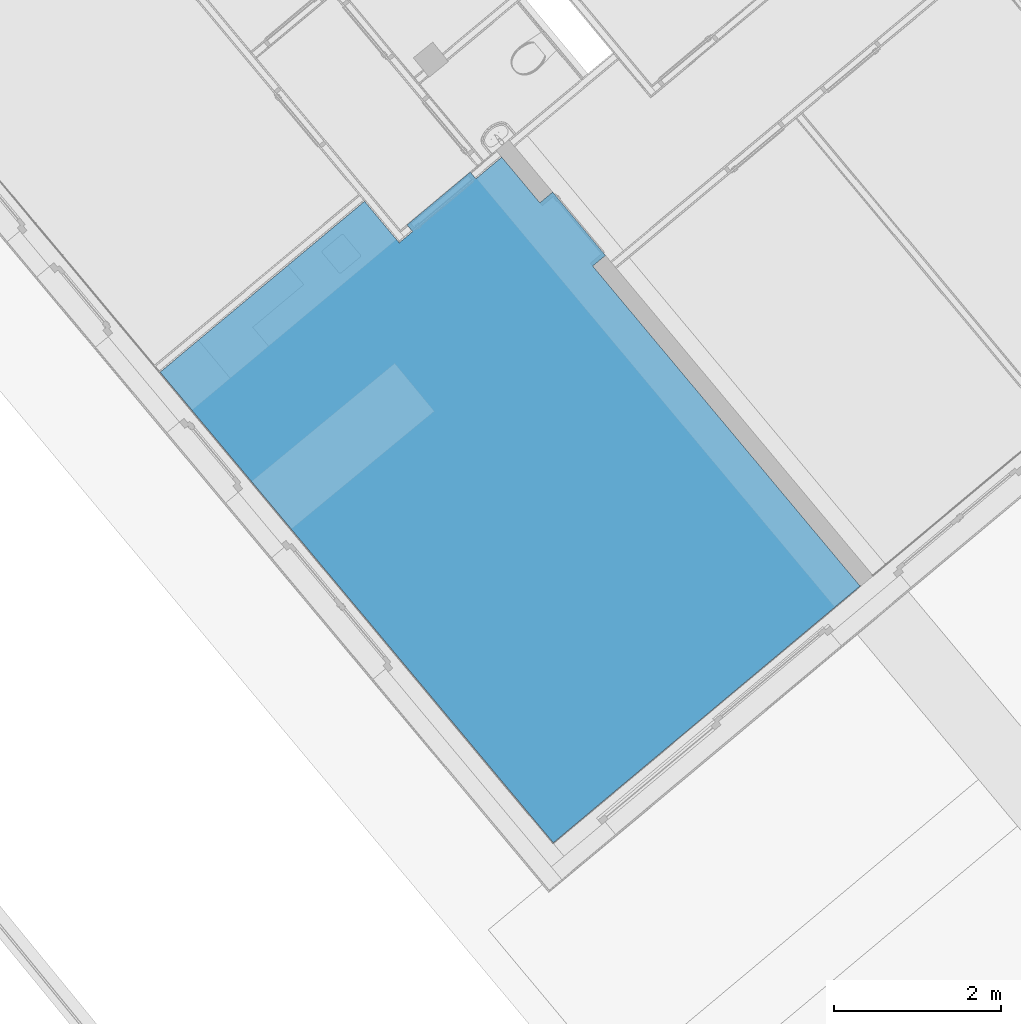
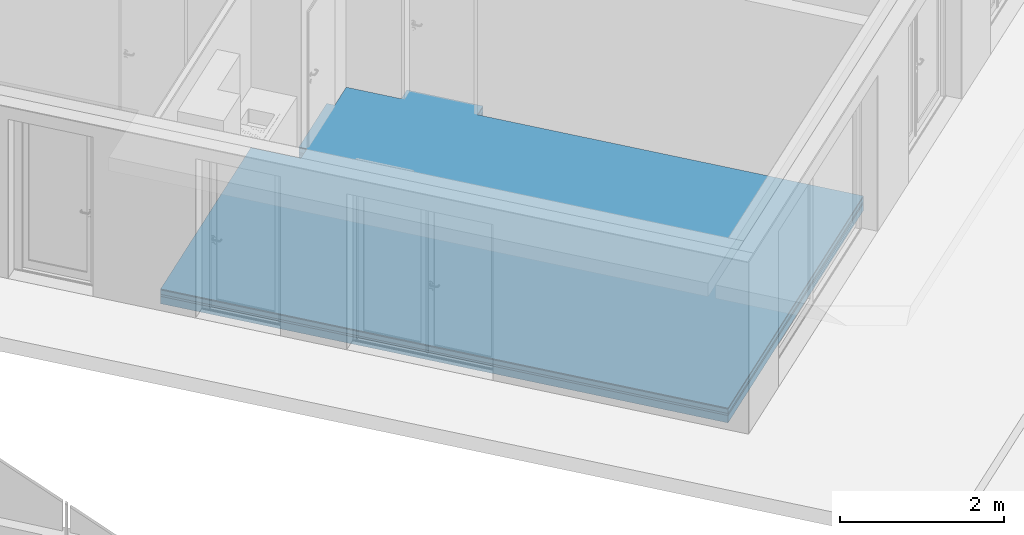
# One storey, part 21 of 67: 4 building element parts, 1 element without a shape of its own.
"""IFC4 building model written with IfcOpenShell, lengths in metres."""

from ifc_helpers import new_model, entity, si_unit, converted_unit, derived_unit, direction, frame, origin_with_axes, place, context, subcontext, project, spatial, polygons, material, type_object, element, aggregate, save


model = new_model("IFC4")

# Units and contexts
model_context = context("Model", 3, precision=1e-05, world=origin_with_axes(), true_north=direction((0.0, 1.0)))
body_context = subcontext(model_context, "Body", "Model", "MODEL_VIEW")
ifc_project = project(units=[si_unit("LENGTHUNIT", "METRE"), si_unit("AREAUNIT", "SQUARE_METRE"), si_unit("VOLUMEUNIT", "CUBIC_METRE"), converted_unit("PLANEANGLEUNIT", "DEGREE", entity("IfcPlaneAngleMeasure", 0.0174532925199), si_unit("PLANEANGLEUNIT", "RADIAN"), dimensions=[0, 0, 0, 0, 0, 0, 0]), converted_unit("TIMEUNIT", "Year", entity("IfcTimeMeasure", 31556926.0), si_unit("TIMEUNIT", "SECOND"), dimensions=[0, 0, 1, 0, 0, 0, 0]), si_unit("MASSUNIT", "GRAM", prefix="KILO"), si_unit("THERMODYNAMICTEMPERATUREUNIT", "DEGREE_CELSIUS"), si_unit("LUMINOUSINTENSITYUNIT", "LUMEN"), si_unit("ENERGYUNIT", "JOULE", prefix="MEGA"), derived_unit("THERMALCONDUCTANCEUNIT", [(si_unit("POWERUNIT", "WATT"), 1), (si_unit("LENGTHUNIT", "METRE"), -1), (si_unit("THERMODYNAMICTEMPERATUREUNIT", "KELVIN"), -1)]), derived_unit("SPECIFICHEATCAPACITYUNIT", [(si_unit("ENERGYUNIT", "JOULE"), 1), (si_unit("MASSUNIT", "GRAM", prefix="KILO"), -1), (si_unit("THERMODYNAMICTEMPERATUREUNIT", "KELVIN"), -1)]), derived_unit("MASSDENSITYUNIT", [(si_unit("MASSUNIT", "GRAM", prefix="KILO"), 1), (si_unit("VOLUMEUNIT", "CUBIC_METRE"), -1)])], contexts=[model_context])

# Site, building, storey
site_placement = place(None, frame((-0.00153261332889, -0.00661245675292, 0.0), z_axis=(0.0, 0.0, 1.0), x_axis=(1.0, 0.0, 0.0)))
site = spatial("IfcSite", under=ifc_project, at=site_placement, Name="Site", CompositionType="ELEMENT")
building_placement = place(site_placement, origin_with_axes())
building = spatial("IfcBuilding", under=site, at=building_placement, Name="Building", CompositionType="ELEMENT")
storey_placement = place(building_placement, frame((0.0, 0.0, -0.22), z_axis=(0.0, 0.0, 1.0), x_axis=(1.0, 0.0, 0.0)))
storey = spatial("IfcBuildingStorey", under=building, at=storey_placement, Name="EG", CompositionType="ELEMENT", Elevation=-0.22)

# Covering, building element parts
covering_type = type_object("IfcCoveringType", Name="DE 01 Decke Wohnung/Wohnung Parkett 220", PredefinedType="NOTDEFINED")
covering_placement = place(storey_placement, frame((-4.88832532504, 15.131985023, 0.22), z_axis=(0.0, 0.0, 1.0), x_axis=(1.0, 0.0, 0.0)))
covering = element("IfcCovering", 1, at=covering_placement, inside=storey, type_object=covering_type, Name="Decke-008", PredefinedType="NOTDEFINED")
ifc_material_1 = material(Name="Parkett")
building_element_part_1_placement = place(covering_placement, origin_with_axes())
building_element_part_1 = element("IfcBuildingElementPart", 2, at=building_element_part_1_placement, material=ifc_material_1, Name="Parkett", PredefinedType="NOTDEFINED", context=body_context, shape_type="Tessellation", body=[
    polygons([(0.0, 0.0, -0.015), (4.72379239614, -5.65318648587, -0.015), (4.72379239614, -5.65318648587, 0.0), (0.0, 0.0, 0.0), (2.455765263, 2.05203294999, -0.015), (2.87252503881, 1.55327687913, -0.015), (3.03331536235, 1.68763299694, -0.015), (2.96598832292, 1.76820639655, -0.015), (3.72568057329, 2.40300385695, -0.015), (3.79300748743, 2.32243033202, -0.015), (4.10363950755, 2.58199386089, -0.015), (4.56187738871, 2.03359883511, -0.015), (4.7153506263, 2.16184073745, -0.015), (5.35014796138, 1.4021484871, -0.015), (5.19667484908, 1.27390658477, -0.015), (8.40866584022, -2.57003544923, -0.015), (8.40866584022, -2.57003544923, 0.0), (2.455765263, 2.05203294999, 0.0), (5.19667484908, 1.27390658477, 0.0), (5.35014796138, 1.4021484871, 0.0), (4.7153506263, 2.16184073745, 0.0), (4.56187738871, 2.03359883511, 0.0), (4.10363950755, 2.58199386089, 0.0), (3.79300748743, 2.32243033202, 0.0), (3.72568057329, 2.40300385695, 0.0), (2.96598832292, 1.76820639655, 0.0), (3.03331536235, 1.68763299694, 0.0), (2.87252503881, 1.55327687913, 0.0)], [[[1, 2, 3, 4]], [[2, 1, 5, 6, 7, 8, 9, 10, 11, 12, 13, 14, 15, 16]], [[2, 16, 17, 3]], [[18, 4, 3, 17, 19, 20, 21, 22, 23, 24, 25, 26, 27, 28]], [[5, 1, 4, 18]], [[6, 5, 18, 28]], [[7, 6, 28, 27]], [[8, 7, 27, 26]], [[9, 8, 26, 25]], [[10, 9, 25, 24]], [[11, 10, 24, 23]], [[12, 11, 23, 22]], [[13, 12, 22, 21]], [[14, 13, 21, 20]], [[15, 14, 20, 19]], [[16, 15, 19, 17]]], closed=True),
])
ifc_material_2 = material(Name="Estrich")
building_element_part_2_placement = place(covering_placement, origin_with_axes())
building_element_part_2 = element("IfcBuildingElementPart", 3, at=building_element_part_2_placement, material=ifc_material_2, Name="Estrich", PredefinedType="NOTDEFINED", context=body_context, shape_type="Tessellation", body=[
    polygons([(0.0, 0.0, -0.08), (4.72379239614, -5.65318648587, -0.08), (4.72379239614, -5.65318648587, -0.015), (0.0, 0.0, -0.015), (2.455765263, 2.05203294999, -0.08), (2.87252503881, 1.55327687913, -0.08), (3.03331536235, 1.68763299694, -0.08), (2.96598832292, 1.76820639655, -0.08), (3.72568057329, 2.40300385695, -0.08), (3.79300748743, 2.32243033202, -0.08), (4.10363950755, 2.58199386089, -0.08), (4.56187738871, 2.03359883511, -0.08), (4.7153506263, 2.16184073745, -0.08), (5.35014796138, 1.4021484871, -0.08), (5.19667484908, 1.27390658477, -0.08), (8.40866584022, -2.57003544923, -0.08), (8.40866584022, -2.57003544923, -0.015), (2.455765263, 2.05203294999, -0.015), (5.19667484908, 1.27390658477, -0.015), (5.35014796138, 1.4021484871, -0.015), (4.7153506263, 2.16184073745, -0.015), (4.56187738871, 2.03359883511, -0.015), (4.10363950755, 2.58199386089, -0.015), (3.79300748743, 2.32243033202, -0.015), (3.72568057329, 2.40300385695, -0.015), (2.96598832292, 1.76820639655, -0.015), (3.03331536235, 1.68763299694, -0.015), (2.87252503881, 1.55327687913, -0.015)], [[[1, 2, 3, 4]], [[2, 1, 5, 6, 7, 8, 9, 10, 11, 12, 13, 14, 15, 16]], [[2, 16, 17, 3]], [[18, 4, 3, 17, 19, 20, 21, 22, 23, 24, 25, 26, 27, 28]], [[5, 1, 4, 18]], [[6, 5, 18, 28]], [[7, 6, 28, 27]], [[8, 7, 27, 26]], [[9, 8, 26, 25]], [[10, 9, 25, 24]], [[11, 10, 24, 23]], [[12, 11, 23, 22]], [[13, 12, 22, 21]], [[14, 13, 21, 20]], [[15, 14, 20, 19]], [[16, 15, 19, 17]]], closed=True),
])
ifc_material_3 = material(Name="Trittschalldämmung")
building_element_part_3_placement = place(covering_placement, origin_with_axes())
building_element_part_3 = element("IfcBuildingElementPart", 4, at=building_element_part_3_placement, material=ifc_material_3, Name="Trittschalldämmung", PredefinedType="NOTDEFINED", context=body_context, shape_type="Tessellation", body=[
    polygons([(0.0, 0.0, -0.11), (4.72379239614, -5.65318648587, -0.11), (4.72379239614, -5.65318648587, -0.08), (0.0, 0.0, -0.08), (2.455765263, 2.05203294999, -0.11), (2.87252503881, 1.55327687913, -0.11), (3.03331536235, 1.68763299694, -0.11), (2.96598832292, 1.76820639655, -0.11), (3.72568057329, 2.40300385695, -0.11), (3.79300748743, 2.32243033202, -0.11), (4.10363950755, 2.58199386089, -0.11), (4.56187738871, 2.03359883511, -0.11), (4.7153506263, 2.16184073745, -0.11), (5.35014796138, 1.4021484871, -0.11), (5.19667484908, 1.27390658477, -0.11), (8.40866584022, -2.57003544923, -0.11), (8.40866584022, -2.57003544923, -0.08), (2.455765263, 2.05203294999, -0.08), (5.19667484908, 1.27390658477, -0.08), (5.35014796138, 1.4021484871, -0.08), (4.7153506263, 2.16184073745, -0.08), (4.56187738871, 2.03359883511, -0.08), (4.10363950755, 2.58199386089, -0.08), (3.79300748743, 2.32243033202, -0.08), (3.72568057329, 2.40300385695, -0.08), (2.96598832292, 1.76820639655, -0.08), (3.03331536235, 1.68763299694, -0.08), (2.87252503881, 1.55327687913, -0.08)], [[[1, 2, 3, 4]], [[2, 1, 5, 6, 7, 8, 9, 10, 11, 12, 13, 14, 15, 16]], [[2, 16, 17, 3]], [[18, 4, 3, 17, 19, 20, 21, 22, 23, 24, 25, 26, 27, 28]], [[5, 1, 4, 18]], [[6, 5, 18, 28]], [[7, 6, 28, 27]], [[8, 7, 27, 26]], [[9, 8, 26, 25]], [[10, 9, 25, 24]], [[11, 10, 24, 23]], [[12, 11, 23, 22]], [[13, 12, 22, 21]], [[14, 13, 21, 20]], [[15, 14, 20, 19]], [[16, 15, 19, 17]]], closed=True),
])
ifc_material_4 = material(Name="Schüttung")
building_element_part_4_placement = place(covering_placement, origin_with_axes())
building_element_part_4 = element("IfcBuildingElementPart", 5, at=building_element_part_4_placement, material=ifc_material_4, Name="Schüttung", PredefinedType="NOTDEFINED", context=body_context, shape_type="Tessellation", body=[
    polygons([(0.0, 0.0, -0.11), (0.0, 0.0, -0.22), (4.72379239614, -5.65318648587, -0.22), (4.72379239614, -5.65318648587, -0.11), (2.455765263, 2.05203294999, -0.11), (2.455765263, 2.05203294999, -0.22), (2.87252503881, 1.55327687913, -0.22), (3.03331536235, 1.68763299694, -0.22), (2.96598832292, 1.76820639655, -0.22), (3.72568057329, 2.40300385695, -0.22), (3.79300748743, 2.32243033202, -0.22), (4.10363950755, 2.58199386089, -0.22), (4.56187738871, 2.03359883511, -0.22), (4.7153506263, 2.16184073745, -0.22), (5.35014796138, 1.4021484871, -0.22), (5.19667484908, 1.27390658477, -0.22), (8.40866584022, -2.57003544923, -0.22), (8.40866584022, -2.57003544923, -0.11), (5.19667484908, 1.27390658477, -0.11), (5.35014796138, 1.4021484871, -0.11), (4.7153506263, 2.16184073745, -0.11), (4.56187738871, 2.03359883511, -0.11), (4.10363950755, 2.58199386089, -0.11), (3.79300748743, 2.32243033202, -0.11), (3.72568057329, 2.40300385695, -0.11), (2.96598832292, 1.76820639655, -0.11), (3.03331536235, 1.68763299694, -0.11), (2.87252503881, 1.55327687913, -0.11)], [[[1, 2, 3, 4]], [[5, 6, 2, 1]], [[3, 2, 6, 7, 8, 9, 10, 11, 12, 13, 14, 15, 16, 17]], [[4, 3, 17, 18]], [[5, 1, 4, 18, 19, 20, 21, 22, 23, 24, 25, 26, 27, 28]], [[28, 7, 6, 5]], [[27, 8, 7, 28]], [[26, 9, 8, 27]], [[25, 10, 9, 26]], [[24, 11, 10, 25]], [[23, 12, 11, 24]], [[22, 13, 12, 23]], [[21, 14, 13, 22]], [[20, 15, 14, 21]], [[19, 16, 15, 20]], [[18, 17, 16, 19]]], closed=True),
])
aggregate(covering, [building_element_part_1, building_element_part_2, building_element_part_3, building_element_part_4])

save(model, "model.ifc")
